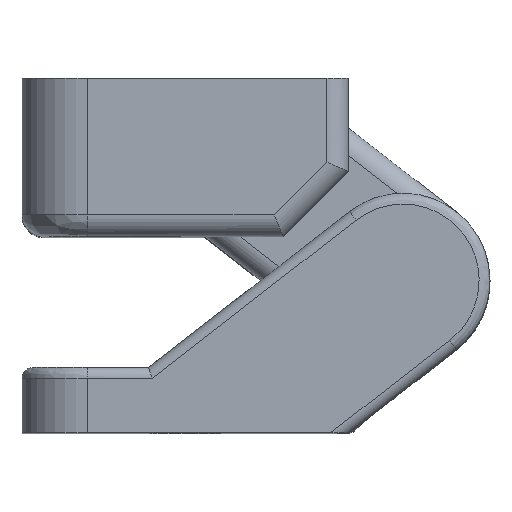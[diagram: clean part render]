
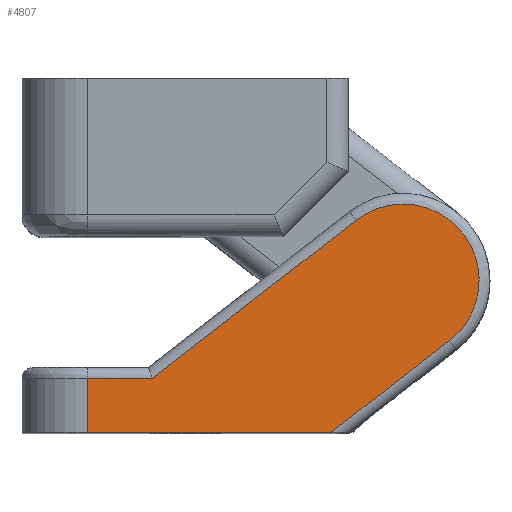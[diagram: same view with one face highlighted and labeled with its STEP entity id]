
A CAD part, top view. The second image highlights one B-rep face of the part: STEP entity #4807.
In plain terms, the highlighted planar face has unit normal (0, 0, 1).
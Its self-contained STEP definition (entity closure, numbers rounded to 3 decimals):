
#6 = CARTESIAN_POINT ( 'NONE',  ( 12.145, 4.237, 15. ) ) ;
#23 = VECTOR ( 'NONE', #4173, 1000. ) ;
#58 = EDGE_CURVE ( 'NONE', #1007, #890, #2101, .T. ) ;
#182 = CARTESIAN_POINT ( 'NONE',  ( -1.513, 2.5, 15. ) ) ;
#205 = CARTESIAN_POINT ( 'NONE',  ( -7.5, 2.5, 15. ) ) ;
#259 = EDGE_CURVE ( 'NONE', #890, #3773, #1781, .T. ) ;
#338 = EDGE_CURVE ( 'NONE', #3773, #4424, #2515, .T. ) ;
#367 = CARTESIAN_POINT ( 'NONE',  ( 12.145, 4.237, 15. ) ) ;
#389 = CARTESIAN_POINT ( 'NONE',  ( 13.385, 14.058, 15. ) ) ;
#599 = FACE_OUTER_BOUND ( 'NONE', #2645, .T. ) ;
#758 = PLANE ( 'NONE',  #2700 ) ;
#839 = ORIENTED_EDGE ( 'NONE', *, *, #1826, .F. ) ;
#890 = VERTEX_POINT ( 'NONE', #969 ) ;
#903 = LINE ( 'NONE', #3640, #1788 ) ;
#969 = CARTESIAN_POINT ( 'NONE',  ( -1.513, 2.5, 15. ) ) ;
#1007 = VERTEX_POINT ( 'NONE', #1347 ) ;
#1228 = ORIENTED_EDGE ( 'NONE', *, *, #1612, .T. ) ;
#1289 = ORIENTED_EDGE ( 'NONE', *, *, #338, .F. ) ;
#1347 = CARTESIAN_POINT ( 'NONE',  ( -4.5, 2.5, 15. ) ) ;
#1506 = DIRECTION ( 'NONE',  ( 1., 0., 0. ) ) ;
#1612 = EDGE_CURVE ( 'NONE', #5478, #2284, #903, .T. ) ;
#1702 = CARTESIAN_POINT ( 'NONE',  ( 6.684, 0., 15. ) ) ;
#1781 = LINE ( 'NONE', #182, #4177 ) ;
#1788 = VECTOR ( 'NONE', #1506, 1000. ) ;
#1826 = EDGE_CURVE ( 'NONE', #4424, #2284, #3018, .T. ) ;
#1978 = ORIENTED_EDGE ( 'NONE', *, *, #3829, .F. ) ;
#2078 = DIRECTION ( 'NONE',  ( -1., 0., 0. ) ) ;
#2101 = LINE ( 'NONE', #205, #3118 ) ;
#2284 = VERTEX_POINT ( 'NONE', #1702 ) ;
#2448 = DIRECTION ( 'NONE',  ( -0.79, -0.613, 0. ) ) ;
#2452 = CARTESIAN_POINT ( 'NONE',  ( 17.676, 8.527, 15. ) ) ;
#2496 = CARTESIAN_POINT ( 'NONE',  ( -7.5, 3., 15. ) ) ;
#2515 =( BOUNDED_CURVE ( )  B_SPLINE_CURVE ( 3, ( #4995, #389, #2452, #367 ),
 .UNSPECIFIED., .F., .F. ) 
 B_SPLINE_CURVE_WITH_KNOTS ( ( 4, 4 ),
 ( 0., 1. ),
 .UNSPECIFIED. ) 
 CURVE ( )  GEOMETRIC_REPRESENTATION_ITEM ( )  RATIONAL_B_SPLINE_CURVE ( ( 1., 0.333, 0.333, 1. ) ) 
 REPRESENTATION_ITEM ( '' )  );
#2645 = EDGE_LOOP ( 'NONE', ( #5066, #1978, #1228, #839, #1289, #5352 ) ) ;
#2700 = AXIS2_PLACEMENT_3D ( 'NONE', #2496, #3320, #2078 ) ;
#2858 = LINE ( 'NONE', #3808, #23 ) ;
#3014 = CARTESIAN_POINT ( 'NONE',  ( 7.855, 9.767, 15. ) ) ;
#3018 = LINE ( 'NONE', #3221, #4130 ) ;
#3118 = VECTOR ( 'NONE', #3591, 1000. ) ;
#3221 = CARTESIAN_POINT ( 'NONE',  ( 12.145, 4.237, 15. ) ) ;
#3320 = DIRECTION ( 'NONE',  ( 0., 0., -1. ) ) ;
#3512 = CARTESIAN_POINT ( 'NONE',  ( -4.5, 0., 15. ) ) ;
#3544 = DIRECTION ( 'NONE',  ( 0.79, 0.613, 0. ) ) ;
#3591 = DIRECTION ( 'NONE',  ( 1., 0., 0. ) ) ;
#3640 = CARTESIAN_POINT ( 'NONE',  ( 0., 0., 15. ) ) ;
#3773 = VERTEX_POINT ( 'NONE', #3014 ) ;
#3808 = CARTESIAN_POINT ( 'NONE',  ( -4.5, 3., 15. ) ) ;
#3829 = EDGE_CURVE ( 'NONE', #5478, #1007, #2858, .T. ) ;
#4130 = VECTOR ( 'NONE', #2448, 1000. ) ;
#4173 = DIRECTION ( 'NONE',  ( 0., 1., 0. ) ) ;
#4177 = VECTOR ( 'NONE', #3544, 1000. ) ;
#4424 = VERTEX_POINT ( 'NONE', #6 ) ;
#4807 = ADVANCED_FACE ( 'NONE', ( #599 ), #758, .F. ) ;
#4995 = CARTESIAN_POINT ( 'NONE',  ( 7.855, 9.767, 15. ) ) ;
#5066 = ORIENTED_EDGE ( 'NONE', *, *, #58, .F. ) ;
#5352 = ORIENTED_EDGE ( 'NONE', *, *, #259, .F. ) ;
#5478 = VERTEX_POINT ( 'NONE', #3512 ) ;
